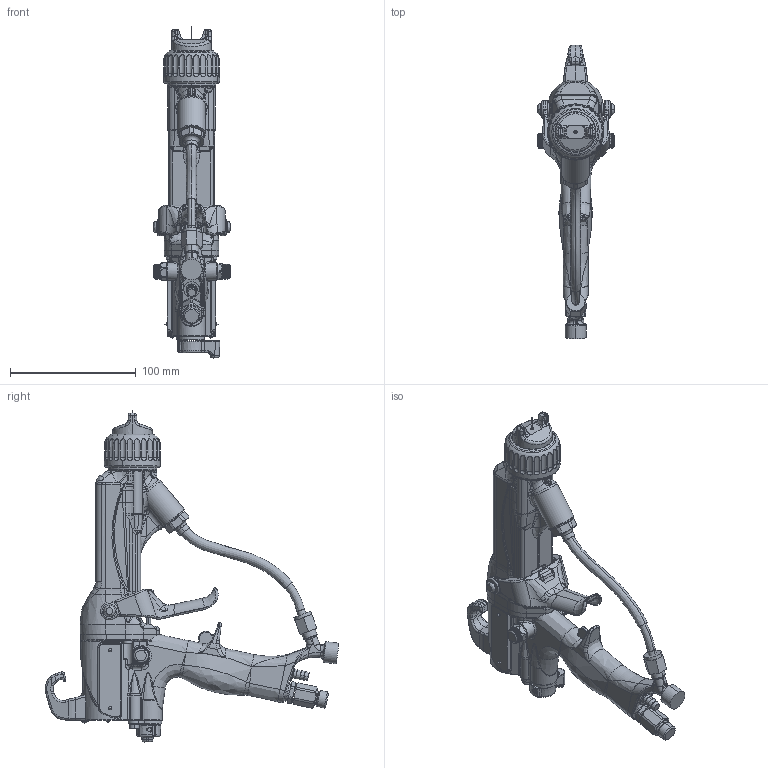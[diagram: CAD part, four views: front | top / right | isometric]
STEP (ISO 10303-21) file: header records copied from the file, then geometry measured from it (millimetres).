
FILE_DESCRIPTION((''),'2;1');
FILE_NAME('L85T90-EN-C_PRT','2020-05-18T18:56:41',('qusrh3'),(''),'CREO PARAMETRIC BY PTC INC, 2019030','CREO PARAMETRIC BY PTC INC, 2019030','');
FILE_SCHEMA(('CONFIG_CONTROL_DESIGN'));
Products named in the file (1): L85T90-EN-C_PRT
Bounding box: 61.15 x 233.22 x 263.65 mm (x, y, z)
Surface area: 91887.6 mm2 (no closed solid volume)
Topology: 0 solids, 59 shells, 2410 faces, 6515 edges, 4003 vertices
Faces by surface type: bspline 881, cylinder 592, plane 473, torus 246, cone 155, sphere 55, extrusion 8
Entity records: 124452 total; most frequent: CARTESIAN_POINT 72120, ORIENTED_EDGE 12015, DIRECTION 9060, EDGE_CURVE 6506, VERTEX_POINT 4003, AXIS2_PLACEMENT_3D 3703, B_SPLINE_CURVE_WITH_KNOTS 2686, EDGE_LOOP 2410
